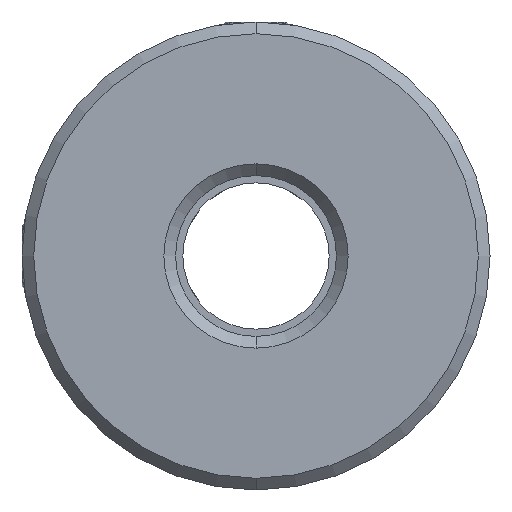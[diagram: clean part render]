
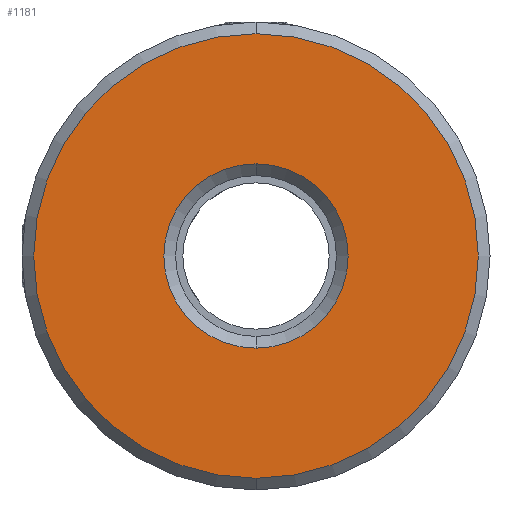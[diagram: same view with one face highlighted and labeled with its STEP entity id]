
A CAD part, front view. The second image highlights one B-rep face of the part: STEP entity #1181.
In plain terms, the highlighted planar face has unit normal (0, -1, 0).
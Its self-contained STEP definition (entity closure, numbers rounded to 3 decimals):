
#115 = DIRECTION ( 'NONE',  ( 0., -1., 0. ) ) ;
#305 = DIRECTION ( 'NONE',  ( 0., 0., 1. ) ) ;
#315 = AXIS2_PLACEMENT_3D ( 'NONE', #2738, #115, #610 ) ;
#349 = ORIENTED_EDGE ( 'NONE', *, *, #1319, .T. ) ;
#360 = CARTESIAN_POINT ( 'NONE',  ( -10.188, -0.277, 0.046 ) ) ;
#462 = VERTEX_POINT ( 'NONE', #644 ) ;
#610 = DIRECTION ( 'NONE',  ( 0., 0., 1. ) ) ;
#630 = VERTEX_POINT ( 'NONE', #3574 ) ;
#644 = CARTESIAN_POINT ( 'NONE',  ( -10.188, -0.277, 6.346 ) ) ;
#650 = ORIENTED_EDGE ( 'NONE', *, *, #3608, .T. ) ;
#780 = DIRECTION ( 'NONE',  ( 0., 0., 1. ) ) ;
#895 = DIRECTION ( 'NONE',  ( 0., 0., 1. ) ) ;
#923 = CARTESIAN_POINT ( 'NONE',  ( -10.188, -0.277, 0.046 ) ) ;
#981 = DIRECTION ( 'NONE',  ( 0., 1., 0. ) ) ;
#1088 = EDGE_CURVE ( 'NONE', #630, #462, #1466, .T. ) ;
#1181 = ADVANCED_FACE ( 'NONE', ( #1211, #2328 ), #3525, .F. ) ;
#1211 = FACE_OUTER_BOUND ( 'NONE', #1397, .T. ) ;
#1228 = ORIENTED_EDGE ( 'NONE', *, *, #2139, .T. ) ;
#1276 = DIRECTION ( 'NONE',  ( 0., 0., 1. ) ) ;
#1319 = EDGE_CURVE ( 'NONE', #3203, #2116, #1740, .T. ) ;
#1397 = EDGE_LOOP ( 'NONE', ( #1228, #349 ) ) ;
#1427 = CIRCLE ( 'NONE', #3297, 6.3 ) ;
#1466 = CIRCLE ( 'NONE', #3341, 6.3 ) ;
#1480 = EDGE_LOOP ( 'NONE', ( #3432, #650 ) ) ;
#1501 = CARTESIAN_POINT ( 'NONE',  ( -10.188, -0.277, 15.246 ) ) ;
#1717 = DIRECTION ( 'NONE',  ( 0., 1., 0. ) ) ;
#1740 = CIRCLE ( 'NONE', #1971, 15.2 ) ;
#1971 = AXIS2_PLACEMENT_3D ( 'NONE', #360, #2720, #1276 ) ;
#2021 = CARTESIAN_POINT ( 'NONE',  ( -10.188, -0.277, -15.154 ) ) ;
#2116 = VERTEX_POINT ( 'NONE', #1501 ) ;
#2139 = EDGE_CURVE ( 'NONE', #2116, #3203, #2272, .T. ) ;
#2272 = CIRCLE ( 'NONE', #315, 15.2 ) ;
#2328 = FACE_BOUND ( 'NONE', #1480, .T. ) ;
#2701 = CARTESIAN_POINT ( 'NONE',  ( -10.188, -0.277, 0.046 ) ) ;
#2720 = DIRECTION ( 'NONE',  ( 0., -1., 0. ) ) ;
#2738 = CARTESIAN_POINT ( 'NONE',  ( -10.188, -0.277, 0.046 ) ) ;
#2983 = AXIS2_PLACEMENT_3D ( 'NONE', #923, #3488, #895 ) ;
#3203 = VERTEX_POINT ( 'NONE', #2021 ) ;
#3297 = AXIS2_PLACEMENT_3D ( 'NONE', #2701, #981, #305 ) ;
#3341 = AXIS2_PLACEMENT_3D ( 'NONE', #3375, #1717, #780 ) ;
#3375 = CARTESIAN_POINT ( 'NONE',  ( -10.188, -0.277, 0.046 ) ) ;
#3432 = ORIENTED_EDGE ( 'NONE', *, *, #1088, .T. ) ;
#3488 = DIRECTION ( 'NONE',  ( 0., 1., 0. ) ) ;
#3525 = PLANE ( 'NONE',  #2983 ) ;
#3574 = CARTESIAN_POINT ( 'NONE',  ( -10.188, -0.277, -6.254 ) ) ;
#3608 = EDGE_CURVE ( 'NONE', #462, #630, #1427, .T. ) ;
